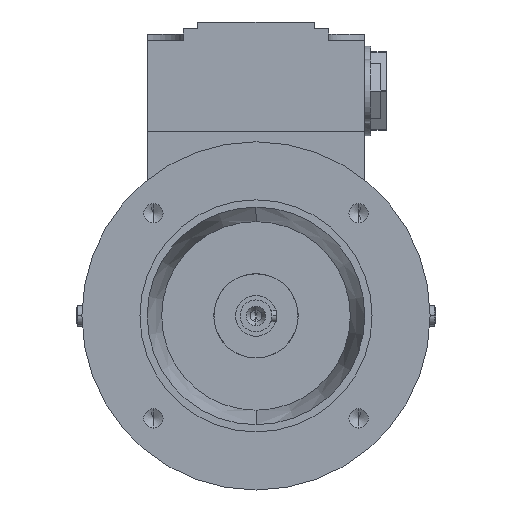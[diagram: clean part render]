
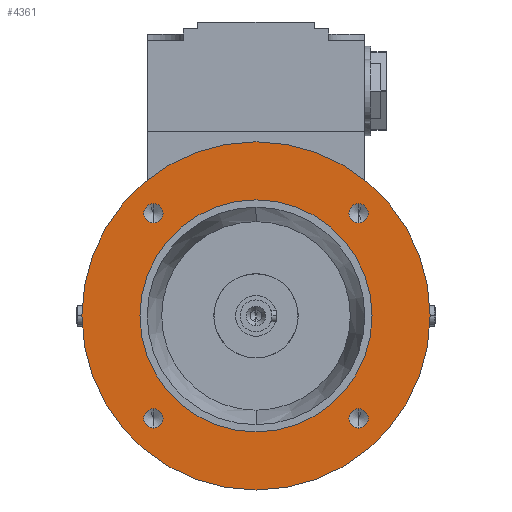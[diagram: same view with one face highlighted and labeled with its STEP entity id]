
A CAD part, left-side view. The second image highlights one B-rep face of the part: STEP entity #4361.
In plain terms, the highlighted planar face has unit normal (-1, 0, 0).
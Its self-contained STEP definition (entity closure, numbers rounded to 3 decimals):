
#126 = VERTEX_POINT ( 'NONE', #4811 ) ;
#221 = AXIS2_PLACEMENT_3D ( 'NONE', #3007, #7900, #12844 ) ;
#281 = EDGE_CURVE ( 'NONE', #4375, #12567, #7588, .T. ) ;
#294 = FACE_BOUND ( 'NONE', #15240, .T. ) ;
#391 = DIRECTION ( 'NONE',  ( 1., 0., 0. ) ) ;
#671 = AXIS2_PLACEMENT_3D ( 'NONE', #7530, #391, #5116 ) ;
#1035 = AXIS2_PLACEMENT_3D ( 'NONE', #1998, #13193, #8245 ) ;
#1531 = EDGE_CURVE ( 'NONE', #8097, #9908, #12028, .T. ) ;
#1766 = EDGE_CURVE ( 'NONE', #9451, #14509, #10501, .T. ) ;
#1809 = DIRECTION ( 'NONE',  ( 0., 0., 1. ) ) ;
#1998 = CARTESIAN_POINT ( 'NONE',  ( -29.5, -35.355, -35.355 ) ) ;
#2046 = ORIENTED_EDGE ( 'NONE', *, *, #8268, .T. ) ;
#2141 = ORIENTED_EDGE ( 'NONE', *, *, #12900, .F. ) ;
#2414 = CARTESIAN_POINT ( 'NONE',  ( -29.5, -35.355, -35.355 ) ) ;
#2493 = DIRECTION ( 'NONE',  ( 1., 0., 0. ) ) ;
#2642 = CARTESIAN_POINT ( 'NONE',  ( -29.5, 35.355, 35.355 ) ) ;
#2798 = EDGE_CURVE ( 'NONE', #4115, #10823, #6352, .T. ) ;
#2931 = FACE_BOUND ( 'NONE', #6760, .T. ) ;
#3007 = CARTESIAN_POINT ( 'NONE',  ( -29.5, 0., 0. ) ) ;
#3066 = VERTEX_POINT ( 'NONE', #11471 ) ;
#3663 = AXIS2_PLACEMENT_3D ( 'NONE', #10315, #10393, #11431 ) ;
#3979 = AXIS2_PLACEMENT_3D ( 'NONE', #13807, #4302, #7740 ) ;
#4053 = FACE_BOUND ( 'NONE', #15107, .T. ) ;
#4089 = CARTESIAN_POINT ( 'NONE',  ( -29.5, 35.355, -35.355 ) ) ;
#4115 = VERTEX_POINT ( 'NONE', #12955 ) ;
#4149 = CARTESIAN_POINT ( 'NONE',  ( -29.5, 35.355, -38.68 ) ) ;
#4244 = ORIENTED_EDGE ( 'NONE', *, *, #1766, .T. ) ;
#4302 = DIRECTION ( 'NONE',  ( -1., 0., 0. ) ) ;
#4332 = DIRECTION ( 'NONE',  ( 0., 0., -1. ) ) ;
#4361 = ADVANCED_FACE ( 'NONE', ( #4053, #2931, #6458, #6539, #294, #5329 ), #6380, .T. ) ;
#4375 = VERTEX_POINT ( 'NONE', #7824 ) ;
#4811 = CARTESIAN_POINT ( 'NONE',  ( -29.5, 0., -60. ) ) ;
#4846 = EDGE_CURVE ( 'NONE', #12567, #4375, #10648, .T. ) ;
#5116 = DIRECTION ( 'NONE',  ( 0., 0., -1. ) ) ;
#5182 = AXIS2_PLACEMENT_3D ( 'NONE', #15098, #6461, #1809 ) ;
#5329 = FACE_OUTER_BOUND ( 'NONE', #7822, .T. ) ;
#5586 = CARTESIAN_POINT ( 'NONE',  ( -29.5, -35.355, 32.03 ) ) ;
#5622 = CARTESIAN_POINT ( 'NONE',  ( -29.5, -35.355, 38.68 ) ) ;
#5665 = CARTESIAN_POINT ( 'NONE',  ( -29.5, -35.355, 35.355 ) ) ;
#6088 = CARTESIAN_POINT ( 'NONE',  ( -29.5, 35.355, -32.03 ) ) ;
#6352 = CIRCLE ( 'NONE', #221, 40. ) ;
#6380 = PLANE ( 'NONE',  #3979 ) ;
#6458 = FACE_BOUND ( 'NONE', #12605, .T. ) ;
#6459 = AXIS2_PLACEMENT_3D ( 'NONE', #2414, #10977, #11941 ) ;
#6461 = DIRECTION ( 'NONE',  ( 1., 0., 0. ) ) ;
#6539 = FACE_BOUND ( 'NONE', #15250, .T. ) ;
#6760 = EDGE_LOOP ( 'NONE', ( #2046, #15609 ) ) ;
#6934 = ORIENTED_EDGE ( 'NONE', *, *, #281, .T. ) ;
#7182 = DIRECTION ( 'NONE',  ( 1., 0., 0. ) ) ;
#7274 = CIRCLE ( 'NONE', #10590, 3.325 ) ;
#7297 = ORIENTED_EDGE ( 'NONE', *, *, #4846, .T. ) ;
#7492 = VERTEX_POINT ( 'NONE', #5622 ) ;
#7500 = CIRCLE ( 'NONE', #13625, 3.325 ) ;
#7530 = CARTESIAN_POINT ( 'NONE',  ( -29.5, 35.355, 35.355 ) ) ;
#7569 = ORIENTED_EDGE ( 'NONE', *, *, #1531, .T. ) ;
#7588 = CIRCLE ( 'NONE', #671, 3.325 ) ;
#7740 = DIRECTION ( 'NONE',  ( 0., 0., 1. ) ) ;
#7788 = CIRCLE ( 'NONE', #14159, 60. ) ;
#7822 = EDGE_LOOP ( 'NONE', ( #2141, #12195 ) ) ;
#7824 = CARTESIAN_POINT ( 'NONE',  ( -29.5, 35.355, 32.03 ) ) ;
#7900 = DIRECTION ( 'NONE',  ( 1., 0., 0. ) ) ;
#8097 = VERTEX_POINT ( 'NONE', #6088 ) ;
#8245 = DIRECTION ( 'NONE',  ( 0., 0., -1. ) ) ;
#8268 = EDGE_CURVE ( 'NONE', #8318, #7492, #9880, .T. ) ;
#8311 = DIRECTION ( 'NONE',  ( 0., 0., 1. ) ) ;
#8318 = VERTEX_POINT ( 'NONE', #5586 ) ;
#8733 = CARTESIAN_POINT ( 'NONE',  ( -29.5, 35.355, 38.68 ) ) ;
#8868 = AXIS2_PLACEMENT_3D ( 'NONE', #2642, #2493, #13683 ) ;
#9434 = DIRECTION ( 'NONE',  ( 1., 0., 0. ) ) ;
#9451 = VERTEX_POINT ( 'NONE', #15167 ) ;
#9669 = DIRECTION ( 'NONE',  ( 1., 0., 0. ) ) ;
#9880 = CIRCLE ( 'NONE', #12935, 3.325 ) ;
#9908 = VERTEX_POINT ( 'NONE', #4149 ) ;
#9913 = EDGE_CURVE ( 'NONE', #10823, #4115, #15671, .T. ) ;
#9937 = DIRECTION ( 'NONE',  ( 1., 0., 0. ) ) ;
#10092 = ORIENTED_EDGE ( 'NONE', *, *, #10191, .T. ) ;
#10191 = EDGE_CURVE ( 'NONE', #9908, #8097, #7500, .T. ) ;
#10315 = CARTESIAN_POINT ( 'NONE',  ( -29.5, 0., 0. ) ) ;
#10393 = DIRECTION ( 'NONE',  ( 1., 0., 0. ) ) ;
#10403 = ORIENTED_EDGE ( 'NONE', *, *, #12464, .T. ) ;
#10501 = CIRCLE ( 'NONE', #1035, 3.325 ) ;
#10551 = EDGE_CURVE ( 'NONE', #7492, #8318, #7274, .T. ) ;
#10572 = EDGE_CURVE ( 'NONE', #126, #3066, #7788, .T. ) ;
#10590 = AXIS2_PLACEMENT_3D ( 'NONE', #14528, #7182, #10858 ) ;
#10648 = CIRCLE ( 'NONE', #8868, 3.325 ) ;
#10823 = VERTEX_POINT ( 'NONE', #12759 ) ;
#10858 = DIRECTION ( 'NONE',  ( 0., 0., -1. ) ) ;
#10977 = DIRECTION ( 'NONE',  ( 1., 0., 0. ) ) ;
#10985 = ORIENTED_EDGE ( 'NONE', *, *, #2798, .T. ) ;
#11431 = DIRECTION ( 'NONE',  ( 0., 0., 1. ) ) ;
#11447 = DIRECTION ( 'NONE',  ( 1., 0., 0. ) ) ;
#11471 = CARTESIAN_POINT ( 'NONE',  ( -29.5, 0., 60. ) ) ;
#11830 = CIRCLE ( 'NONE', #5182, 60. ) ;
#11941 = DIRECTION ( 'NONE',  ( 0., 0., -1. ) ) ;
#12028 = CIRCLE ( 'NONE', #12529, 3.325 ) ;
#12195 = ORIENTED_EDGE ( 'NONE', *, *, #10572, .F. ) ;
#12464 = EDGE_CURVE ( 'NONE', #14509, #9451, #14635, .T. ) ;
#12485 = CARTESIAN_POINT ( 'NONE',  ( -29.5, 35.355, -35.355 ) ) ;
#12529 = AXIS2_PLACEMENT_3D ( 'NONE', #12485, #9937, #13373 ) ;
#12567 = VERTEX_POINT ( 'NONE', #8733 ) ;
#12605 = EDGE_LOOP ( 'NONE', ( #10403, #4244 ) ) ;
#12759 = CARTESIAN_POINT ( 'NONE',  ( -29.5, 0., -40. ) ) ;
#12844 = DIRECTION ( 'NONE',  ( 0., 0., 1. ) ) ;
#12900 = EDGE_CURVE ( 'NONE', #3066, #126, #11830, .T. ) ;
#12935 = AXIS2_PLACEMENT_3D ( 'NONE', #5665, #9434, #15513 ) ;
#12955 = CARTESIAN_POINT ( 'NONE',  ( -29.5, 0., 40. ) ) ;
#13193 = DIRECTION ( 'NONE',  ( 1., 0., 0. ) ) ;
#13373 = DIRECTION ( 'NONE',  ( 0., 0., -1. ) ) ;
#13625 = AXIS2_PLACEMENT_3D ( 'NONE', #4089, #11447, #4332 ) ;
#13642 = ORIENTED_EDGE ( 'NONE', *, *, #9913, .T. ) ;
#13683 = DIRECTION ( 'NONE',  ( 0., 0., -1. ) ) ;
#13767 = CARTESIAN_POINT ( 'NONE',  ( -29.5, -35.355, -38.68 ) ) ;
#13807 = CARTESIAN_POINT ( 'NONE',  ( -29.5, 0., 50. ) ) ;
#14159 = AXIS2_PLACEMENT_3D ( 'NONE', #14610, #9669, #8311 ) ;
#14509 = VERTEX_POINT ( 'NONE', #13767 ) ;
#14528 = CARTESIAN_POINT ( 'NONE',  ( -29.5, -35.355, 35.355 ) ) ;
#14610 = CARTESIAN_POINT ( 'NONE',  ( -29.5, 0., 0. ) ) ;
#14635 = CIRCLE ( 'NONE', #6459, 3.325 ) ;
#15098 = CARTESIAN_POINT ( 'NONE',  ( -29.5, 0., 0. ) ) ;
#15107 = EDGE_LOOP ( 'NONE', ( #10985, #13642 ) ) ;
#15167 = CARTESIAN_POINT ( 'NONE',  ( -29.5, -35.355, -32.03 ) ) ;
#15240 = EDGE_LOOP ( 'NONE', ( #6934, #7297 ) ) ;
#15250 = EDGE_LOOP ( 'NONE', ( #10092, #7569 ) ) ;
#15513 = DIRECTION ( 'NONE',  ( 0., 0., -1. ) ) ;
#15609 = ORIENTED_EDGE ( 'NONE', *, *, #10551, .T. ) ;
#15671 = CIRCLE ( 'NONE', #3663, 40. ) ;
